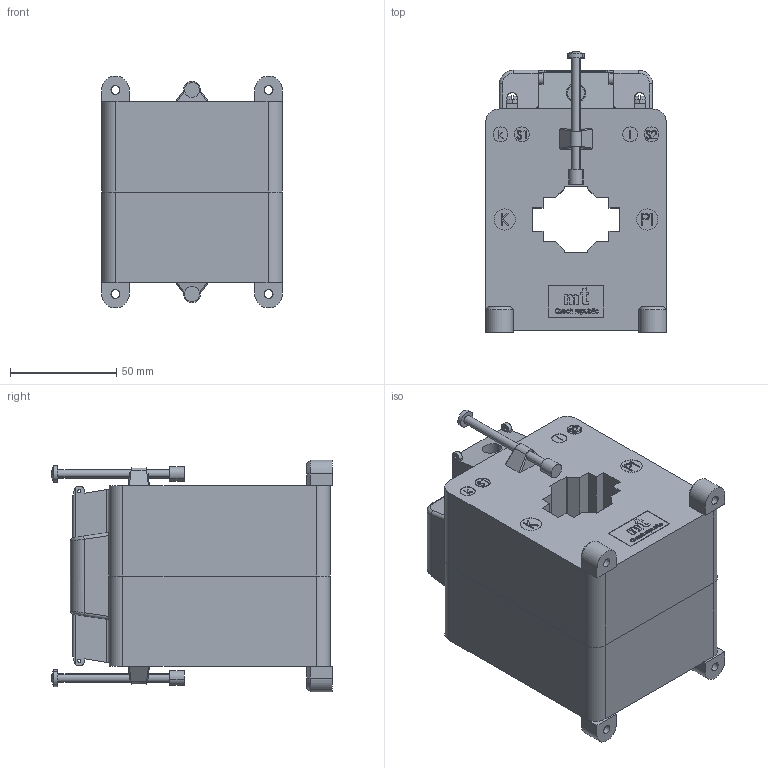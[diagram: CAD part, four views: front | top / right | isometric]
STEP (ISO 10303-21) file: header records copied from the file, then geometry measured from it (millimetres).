
FILE_DESCRIPTION (( 'STEP AP214' ), '1' );
FILE_NAME ('CLA 2.3.STEP', '2024-09-30T19:14:20', ( '' ), ( '' ), 'SwSTEP 2.0', 'SolidWorks 2024', '' );
FILE_SCHEMA (( 'AUTOMOTIVE_DESIGN' ));
Length unit declared in the file: millimetre
Products named in the file (11): Screw 4x60; Screw M5x8; Secondary terminal; Rivet 60; Insulating cap; Front plastic case CLA 2.3; Plastic mounting foot; Type label CLA 2.3; CLA 2.3; Back plastic case CLA 2.3; Secondary terminal cover CLA
Assembly tree (19 placements, depth 2):
  CLA 2.3
    Front plastic case CLA 2.3
    Back plastic case CLA 2.3
    Type label CLA 2.3
    Secondary terminal cover CLA
    Plastic mounting foot  x4
    Secondary terminal  x2
    Screw M5x8  x2
    Screw 4x60  x2
    Rivet 60  x3
    Insulating cap  x2
Bounding box: 85 x 132 x 109 mm (x, y, z)
Volume: 727211.9 mm3; surface area: 110763.2 mm2
Topology: 19 solids, 22 shells, 1389 faces, 3647 edges, 2406 vertices
Faces by surface type: plane 779, bspline 325, cylinder 225, cone 36, sphere 12, torus 12
Entity records: 52608 total; most frequent: CARTESIAN_POINT 24397, ORIENTED_EDGE 6220, DIRECTION 4456, EDGE_CURVE 3110, LINE 2074, VECTOR 2074, VERTEX_POINT 2060, EDGE_LOOP 1296
